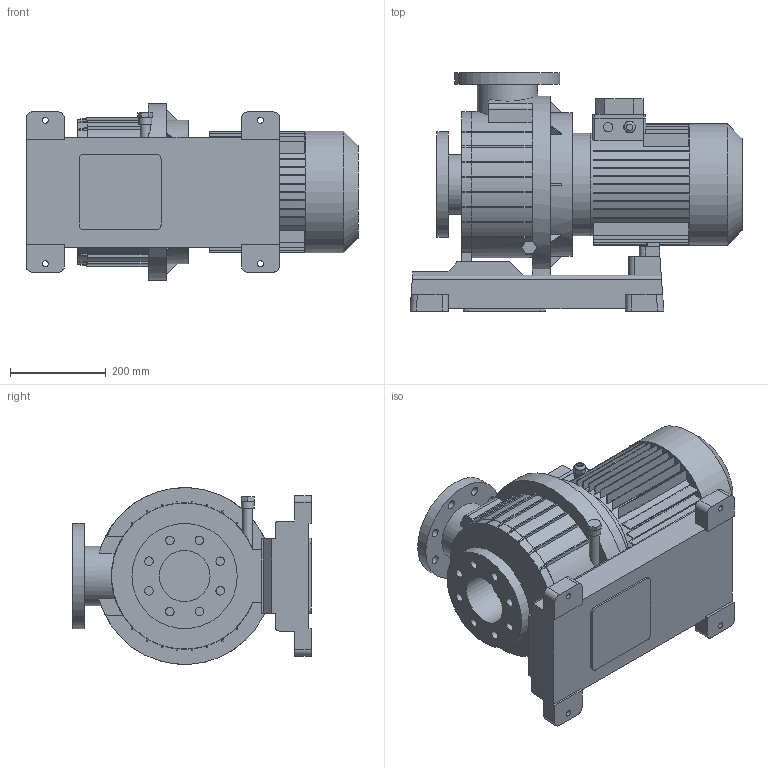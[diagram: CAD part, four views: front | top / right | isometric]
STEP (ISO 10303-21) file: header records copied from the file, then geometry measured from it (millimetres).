
FILE_DESCRIPTION(/* description */ ('Unknown'),/* implementation_level */ '2;1');
FILE_NAME(/* name */ 'KONTRA 750',/* time_stamp */ '2018-10-21T18:13:00+02:00',/* author */ ('Unknown'),/* organization */ ('Unknown'),/* preprocessor_version */ 'ST-DEVELOPER v16.7',/* originating_system */ 'DEX',/* authorisation */ $);
FILE_SCHEMA (('AUTOMOTIVE_DESIGN {1 0 10303 214 3 1 1}'));
Length unit declared in the file: millimetre
Products named in the file (1): KONTRA 750
Bounding box: 694.35 x 499 x 369.55 mm (x, y, z)
Volume: 45700843 mm3; surface area: 1685471.6 mm2
Topology: 1 solids, 2 shells, 547 faces, 1458 edges, 958 vertices
Faces by surface type: plane 425, cylinder 104, cone 17, torus 1
Full cylindrical faces by diameter (mm): 12.5 x4, 13 x1, 18 x16, 19 x2, 20 x2, 21 x3, 23 x1, 27 x1, 106.5 x1, 108 x1, 125 x2, 214 x1, 215 x1, 220 x2, 254 x1, 300 x1
Entity records: 20603 total; most frequent: CARTESIAN_POINT 3076, DIRECTION 2815, ORIENTED_EDGE 2782, EDGE_CURVE 1391, LINE 991, VECTOR 991, VERTEX_POINT 934, AXIS2_PLACEMENT_3D 912
